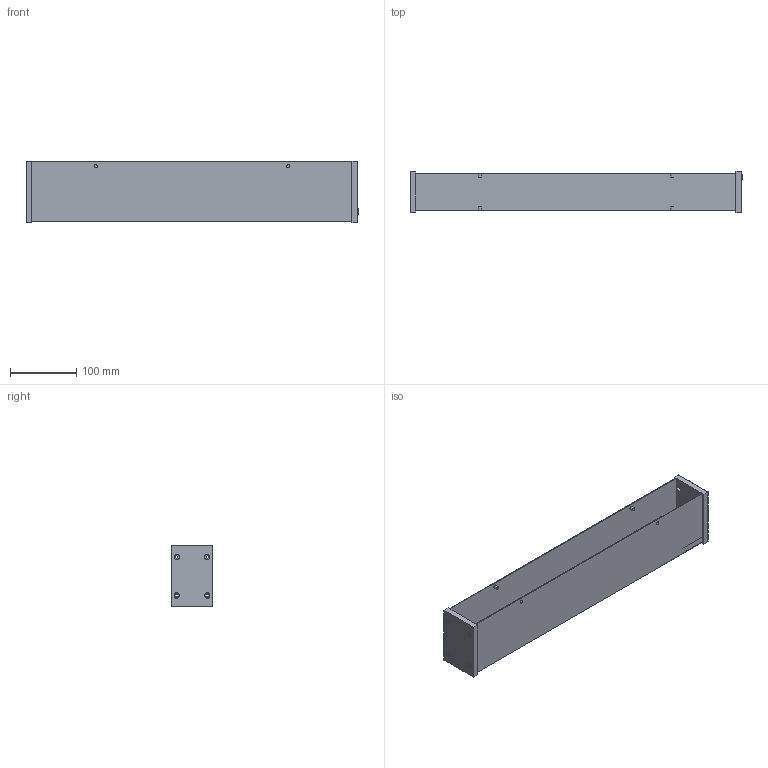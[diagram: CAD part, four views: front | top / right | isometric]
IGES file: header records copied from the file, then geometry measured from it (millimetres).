
Start section: SolidWorks IGES file using analytic representation for surfaces
Global section: file name: C:\Users\anna.bielnik\Desktop\OUTLINE_S_\OUTLINE S.IGS; native system: SolidWorks 2023; preprocessor: SolidWorks 2023; author: anna.bielnik; date: 241004.143423; units: millimetre
Bounding box: 500.07 x 63 x 92 mm (x, y, z)
Surface area: 264505.4 mm2 (no closed solid volume)
Topology: 0 solids, 0 shells, 147 faces, 2212 edges, 2212 vertices
Faces by surface type: bspline 92, revolution 55
